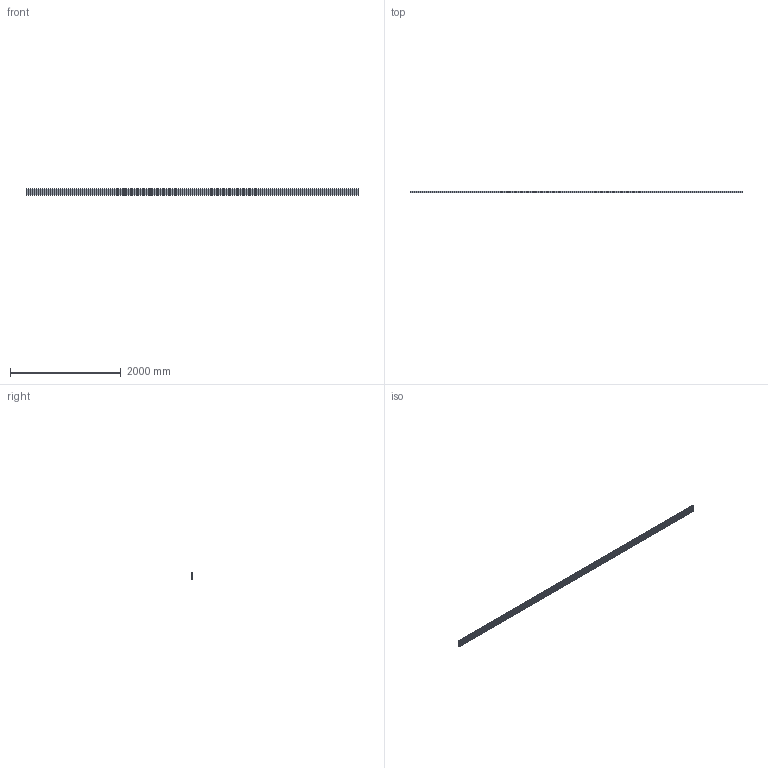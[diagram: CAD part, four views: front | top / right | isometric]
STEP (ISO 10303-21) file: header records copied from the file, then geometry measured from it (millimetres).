
FILE_DESCRIPTION (( 'STEP AP203' ), '1' );
FILE_NAME ('20103900_Profil 30x120 Nut 8_0.step', '2021-06-18T09:56:17', ( '' ), ( '' ), 'SwSTEP 2.0', 'SolidWorks 2021', '' );
FILE_SCHEMA (( 'CONFIG_CONTROL_DESIGN' ));
Length unit declared in the file: millimetre
Products named in the file (1): 20103900_Profil 30x120 Nut 8_0
Bounding box: 6000 x 30 x 120 mm (x, y, z)
Volume: 6136455.4 mm3; surface area: 6312998.3 mm2
Topology: 1 solids, 1 shells, 274 faces, 816 edges, 544 vertices
Faces by surface type: plane 246, cylinder 28
Entity records: 9177 total; most frequent: CARTESIAN_POINT 1635, ORIENTED_EDGE 1632, DIRECTION 1422, EDGE_CURVE 816, VECTOR 760, LINE 760, VERTEX_POINT 544, AXIS2_PLACEMENT_3D 331
